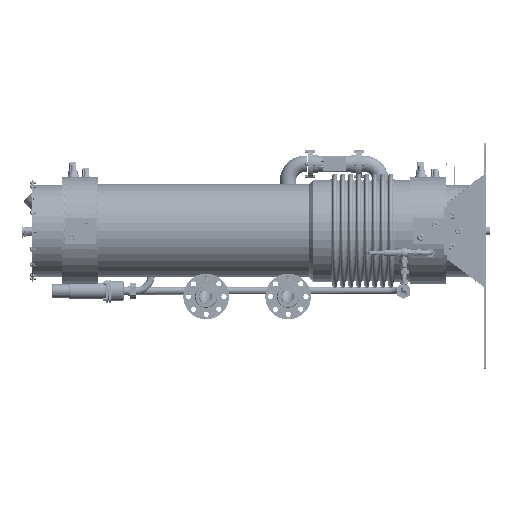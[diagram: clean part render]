
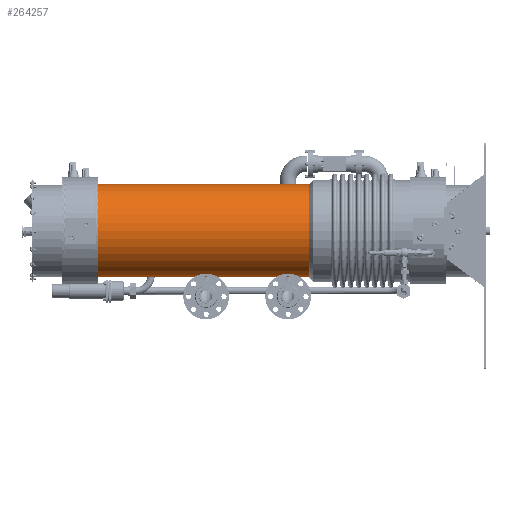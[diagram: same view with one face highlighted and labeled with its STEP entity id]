
A CAD part, left-side view. The second image highlights one B-rep face of the part: STEP entity #264257.
In plain terms, the highlighted cylindrical face has radius 162.5 mm (diameter 325 mm), a partial arc.
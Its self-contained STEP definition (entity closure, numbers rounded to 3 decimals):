
#2580 = AXIS2_PLACEMENT_3D ( 'NONE', #292992, #222485, #197984 ) ;
#6091 = ORIENTED_EDGE ( 'NONE', *, *, #41136, .F. ) ;
#12708 = EDGE_CURVE ( 'NONE', #252603, #139353, #207745, .T. ) ;
#24009 = EDGE_LOOP ( 'NONE', ( #228394, #81938, #111706, #6091 ) ) ;
#33556 = DIRECTION ( 'NONE',  ( 0., 0., 1. ) ) ;
#36828 = AXIS2_PLACEMENT_3D ( 'NONE', #106051, #84558, #196628 ) ;
#38001 = EDGE_CURVE ( 'NONE', #183337, #252603, #139108, .T. ) ;
#41136 = EDGE_CURVE ( 'NONE', #183337, #136642, #93873, .T. ) ;
#50825 = CARTESIAN_POINT ( 'NONE',  ( 1095., 0., -6.55 ) ) ;
#77481 = CARTESIAN_POINT ( 'NONE',  ( 1095., 0., 318.45 ) ) ;
#81938 = ORIENTED_EDGE ( 'NONE', *, *, #12708, .T. ) ;
#84558 = DIRECTION ( 'NONE',  ( -1., 0., 0. ) ) ;
#93873 = LINE ( 'NONE', #138356, #228852 ) ;
#106051 = CARTESIAN_POINT ( 'NONE',  ( -46.181, 0., 155.95 ) ) ;
#109055 = FACE_OUTER_BOUND ( 'NONE', #24009, .T. ) ;
#111706 = ORIENTED_EDGE ( 'NONE', *, *, #166713, .F. ) ;
#125507 = DIRECTION ( 'NONE',  ( -1., 0., 0. ) ) ;
#130544 = CYLINDRICAL_SURFACE ( 'NONE', #36828, 162.5 ) ;
#134105 = CARTESIAN_POINT ( 'NONE',  ( 355.057, 0., -6.55 ) ) ;
#136642 = VERTEX_POINT ( 'NONE', #200191 ) ;
#138356 = CARTESIAN_POINT ( 'NONE',  ( -46.181, 0., 318.45 ) ) ;
#139108 = CIRCLE ( 'NONE', #271362, 162.5 ) ;
#139353 = VERTEX_POINT ( 'NONE', #134105 ) ;
#154120 = CARTESIAN_POINT ( 'NONE',  ( -46.181, 0., -6.55 ) ) ;
#164032 = CIRCLE ( 'NONE', #2580, 162.5 ) ;
#166713 = EDGE_CURVE ( 'NONE', #136642, #139353, #164032, .T. ) ;
#183337 = VERTEX_POINT ( 'NONE', #77481 ) ;
#196628 = DIRECTION ( 'NONE',  ( 0., 0., 1. ) ) ;
#197984 = DIRECTION ( 'NONE',  ( 0., 0., 1. ) ) ;
#200191 = CARTESIAN_POINT ( 'NONE',  ( 355.057, 0., 318.45 ) ) ;
#207745 = LINE ( 'NONE', #154120, #260548 ) ;
#217611 = CARTESIAN_POINT ( 'NONE',  ( 1095., 0., 155.95 ) ) ;
#222485 = DIRECTION ( 'NONE',  ( -1., 0., 0. ) ) ;
#228394 = ORIENTED_EDGE ( 'NONE', *, *, #38001, .T. ) ;
#228852 = VECTOR ( 'NONE', #231944, 1000. ) ;
#231944 = DIRECTION ( 'NONE',  ( -1., 0., 0. ) ) ;
#247656 = DIRECTION ( 'NONE',  ( -1., 0., 0. ) ) ;
#252603 = VERTEX_POINT ( 'NONE', #50825 ) ;
#260548 = VECTOR ( 'NONE', #247656, 1000. ) ;
#264257 = ADVANCED_FACE ( 'NONE', ( #109055 ), #130544, .T. ) ;
#271362 = AXIS2_PLACEMENT_3D ( 'NONE', #217611, #125507, #33556 ) ;
#292992 = CARTESIAN_POINT ( 'NONE',  ( 355.057, 0., 155.95 ) ) ;
